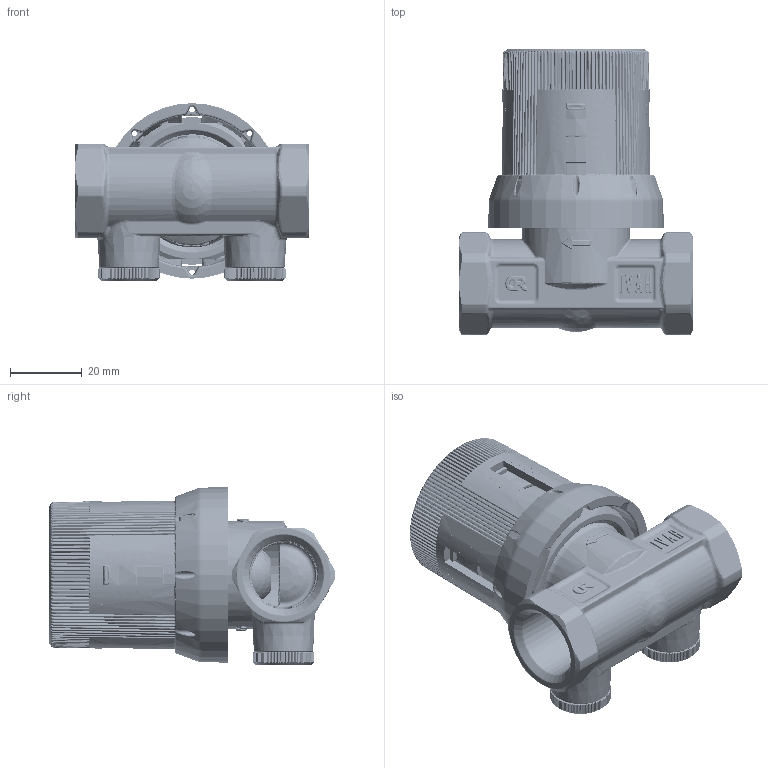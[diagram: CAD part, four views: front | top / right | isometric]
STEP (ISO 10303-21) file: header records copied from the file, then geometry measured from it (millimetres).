
FILE_DESCRIPTION(/* description */ (''),/* implementation_level */ '2;1');
FILE_NAME(/* name */ 'F:\Артём\00000\Работа удаленка\130\VT.042.G.30004.stp',/* time_stamp */ '2021-04-05T15:42:29+03:00',/* author */ ('almis'),/* organization */ (''),/* preprocessor_version */ 'ST-DEVELOPER v18',/* originating_system */ 'Autodesk Inventor 2020',/* authorisation */ '');
FILE_SCHEMA (('AUTOMOTIVE_DESIGN { 1 0 10303 214 3 1 1 }'));
Length unit declared in the file: millimetre
Products named in the file (1): 550110 partner DN15
Bounding box: 65 x 79.34 x 49.39 mm (x, y, z)
Volume: 73091.4 mm3; surface area: 52619.4 mm2
Topology: 1 solids, 14 shells, 7827 faces, 20551 edges, 12632 vertices
Faces by surface type: bspline 2369, plane 1909, cylinder 1838, torus 723, cone 656, sphere 332
Full cylindrical faces by diameter (mm): 5 x2, 6 x1, 6.2 x2, 6.5 x1, 7 x7, 8 x1, 9.4 x3, 9.5 x3, 10.5 x1, 11.5 x4, 12 x2, 12.1 x1, 14 x1, 15 x3, 15.2 x2, 17 x1, 17.2 x1, 18 x2, 19 x8, 20.5 x2, 21 x1, 22.5 x2, 23 x1, 26.1 x1, 27.1 x1, 27.8 x1, 30 x3, 30.5 x1, 31.8 x2, 33 x1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
Entity records: 313321 total; most frequent: CARTESIAN_POINT 126611, ORIENTED_EDGE 40282, DIRECTION 35688, EDGE_CURVE 20141, AXIS2_PLACEMENT_3D 14599, VERTEX_POINT 12546, EDGE_LOOP 7989, FACE_OUTER_BOUND 7741
